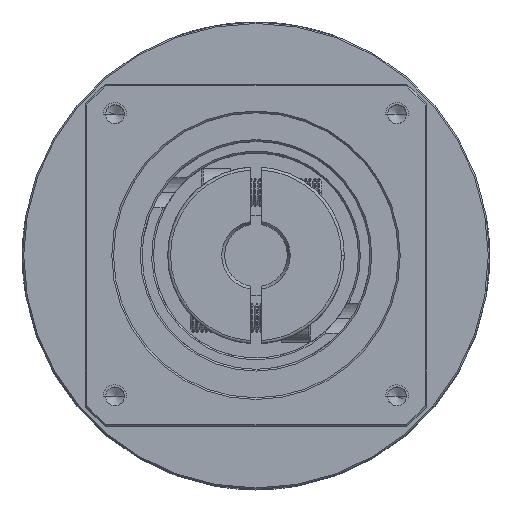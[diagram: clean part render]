
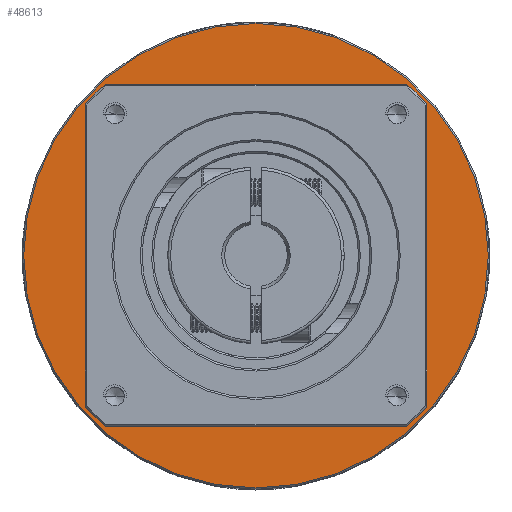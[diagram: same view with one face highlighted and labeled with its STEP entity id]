
A CAD part, top view. The second image highlights one B-rep face of the part: STEP entity #48613.
In plain terms, the highlighted planar face has unit normal (0, 0, 1).
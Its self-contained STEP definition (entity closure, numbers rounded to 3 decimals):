
#846 = EDGE_CURVE ( 'NONE', #75398, #18927, #28596, .T. ) ;
#2674 = EDGE_LOOP ( 'NONE', ( #82389, #11196 ) ) ;
#3255 = CARTESIAN_POINT ( 'NONE',  ( -64.347, 16.502, -14.546 ) ) ;
#8666 = AXIS2_PLACEMENT_3D ( 'NONE', #100428, #100578, #100592 ) ;
#11196 = ORIENTED_EDGE ( 'NONE', *, *, #25517, .T. ) ;
#12968 = DIRECTION ( 'NONE',  ( 1., 0., 0. ) ) ;
#13129 = CARTESIAN_POINT ( 'NONE',  ( -34.347, 16.502, -14.546 ) ) ;
#14129 = AXIS2_PLACEMENT_3D ( 'NONE', #42199, #109949, #51938 ) ;
#17154 = CIRCLE ( 'NONE', #38692, 40.75 ) ;
#18927 = VERTEX_POINT ( 'NONE', #43987 ) ;
#25517 = EDGE_CURVE ( 'NONE', #79815, #101365, #77787, .T. ) ;
#25640 = EDGE_CURVE ( 'NONE', #18927, #75398, #17154, .T. ) ;
#27286 = DIRECTION ( 'NONE',  ( 0., 0., -1. ) ) ;
#28596 = CIRCLE ( 'NONE', #8666, 40.75 ) ;
#38692 = AXIS2_PLACEMENT_3D ( 'NONE', #47579, #115264, #57289 ) ;
#42199 = CARTESIAN_POINT ( 'NONE',  ( -64.347, 16.502, -14.546 ) ) ;
#43987 = CARTESIAN_POINT ( 'NONE',  ( -64.347, 57.252, -14.546 ) ) ;
#47579 = CARTESIAN_POINT ( 'NONE',  ( -64.347, 16.502, -14.546 ) ) ;
#48613 = ADVANCED_FACE ( 'NONE', ( #64553, #107030 ), #89125, .T. ) ;
#51938 = DIRECTION ( 'NONE',  ( -1., 0., 0. ) ) ;
#57198 = CIRCLE ( 'NONE', #14129, 30. ) ;
#57289 = DIRECTION ( 'NONE',  ( 0., 1., 0. ) ) ;
#61745 = EDGE_CURVE ( 'NONE', #101365, #79815, #57198, .T. ) ;
#64553 = FACE_OUTER_BOUND ( 'NONE', #78767, .T. ) ;
#70895 = DIRECTION ( 'NONE',  ( 0., 0., 1. ) ) ;
#74868 = CARTESIAN_POINT ( 'NONE',  ( -64.347, -24.248, -14.546 ) ) ;
#75398 = VERTEX_POINT ( 'NONE', #74868 ) ;
#77787 = CIRCLE ( 'NONE', #112473, 30. ) ;
#78767 = EDGE_LOOP ( 'NONE', ( #92689, #83544 ) ) ;
#79815 = VERTEX_POINT ( 'NONE', #13129 ) ;
#82389 = ORIENTED_EDGE ( 'NONE', *, *, #61745, .T. ) ;
#83544 = ORIENTED_EDGE ( 'NONE', *, *, #846, .F. ) ;
#85212 = CARTESIAN_POINT ( 'NONE',  ( -64.347, 16.502, -14.546 ) ) ;
#89125 = PLANE ( 'NONE',  #91841 ) ;
#91841 = AXIS2_PLACEMENT_3D ( 'NONE', #3255, #70895, #12968 ) ;
#92689 = ORIENTED_EDGE ( 'NONE', *, *, #25640, .F. ) ;
#94985 = DIRECTION ( 'NONE',  ( -1., 0., 0. ) ) ;
#100428 = CARTESIAN_POINT ( 'NONE',  ( -64.347, 16.502, -14.546 ) ) ;
#100578 = DIRECTION ( 'NONE',  ( 0., 0., -1. ) ) ;
#100592 = DIRECTION ( 'NONE',  ( 0., 1., 0. ) ) ;
#101365 = VERTEX_POINT ( 'NONE', #114340 ) ;
#107030 = FACE_BOUND ( 'NONE', #2674, .T. ) ;
#109949 = DIRECTION ( 'NONE',  ( 0., 0., -1. ) ) ;
#112473 = AXIS2_PLACEMENT_3D ( 'NONE', #85212, #27286, #94985 ) ;
#114340 = CARTESIAN_POINT ( 'NONE',  ( -94.347, 16.502, -14.546 ) ) ;
#115264 = DIRECTION ( 'NONE',  ( 0., 0., -1. ) ) ;
